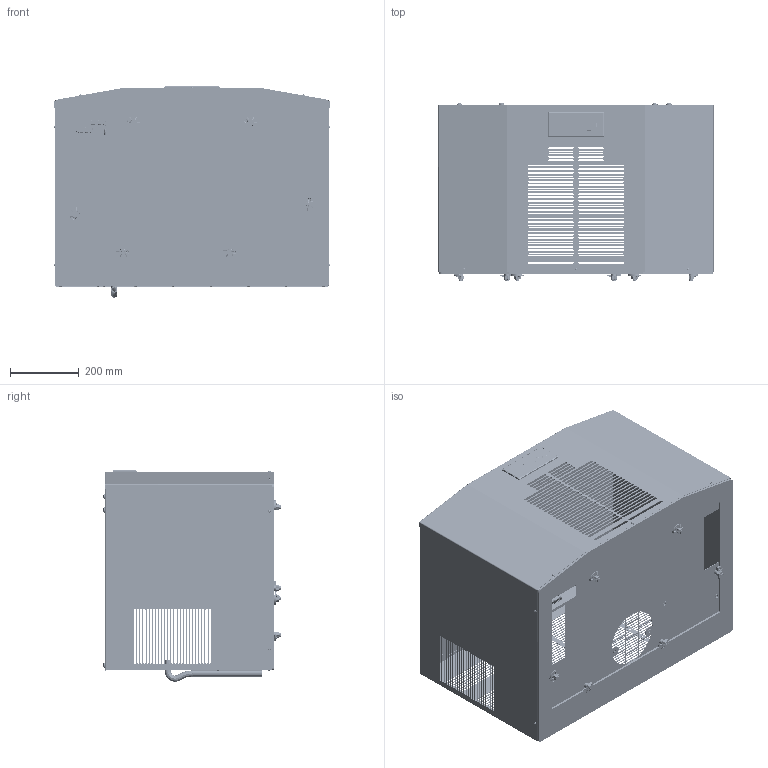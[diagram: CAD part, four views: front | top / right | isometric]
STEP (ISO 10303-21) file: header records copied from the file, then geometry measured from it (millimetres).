
FILE_DESCRIPTION (( 'STEP AP214' ), '1' );
FILE_NAME ('DTT_6601-6801_20150612_ohne Vorsatzfilter.STEP', '2022-09-28T11:39:02', ( '' ), ( '' ), 'SwSTEP 2.0', 'SolidWorks 2021', '' );
FILE_SCHEMA (( 'AUTOMOTIVE_DESIGN' ));
Length unit declared in the file: millimetre
Products named in the file (36): Spax Schrauben Torx_4,0 x 20mm; 30367-140; 11189-405; 020500670 PVC Schlauch in 30379-100; 025416832 WAGO  769-608_002-000; 30379-115_000710810 DTT 66_6801 400_460V 3~ PSCC; 30048-011; 30379-022_002002901; Schweiﾟbolzen EN ISO 13918_020140019 Schwei畸olzen 5x10 St cu Z］dspitze EN ISO 13918; 30178-026; 30379-201_000710781 DTT 6801 400V vormontiert; Blindniet_020140201  4.0x11 K12 Maxi; 30379-012_Bodenblech DTT 6801; Blechschraube mit Linsenkopf und Torx-Antrieb - DIN 7981_020100___ Schraube 4.2x13 St zn ohne Spitze  DIN 7981; 30379-021; 30379-012; Blindnietmutter  Sechskant offen_020140030 M6x14,5 6kt offen St; Blindnietmutter  Sechskant geschlossen_020140031 M6 6kt geschlossen St; DTT_6601-6801_20150612_ohne Vorsatzfilter; Federringe - DIN 127_020200130  Federring B6,0 St zn  DIN 127; 30379-108_000710831 Haubengruppe DTT 66_6801 VA; 30379-202_000710757 Bodengr. DTT 6801 400V; Hex Bolt GradeB_Pfannenberg GmbH_ISO 4015 - M6 x 35 x 18-N; 025416831 WAGO  769-609_002-000; 000721011 Gehäuse  Bedieneinheit; Flachkopfschraube mit Torx - ISO 7045 TX_ISO 7045 TX M8 x 16 vz; Blindnietmutter  Sechskant offen_020140042 M8x16.5 6kt offen St; PK0089AR_Vorreiber_kpl; 30048-011 Dichtung; 30179-083; 30048-100; 30367-012_085000417 Frontfolie Premium Bedieneinheit; 30379-021_002002900; 30379-014; 11189-639; 30048-012
Assembly tree (78 placements, depth 5):
  DTT_6601-6801_20150612_ohne Vorsatzfilter
    30379-201_000710781 DTT 6801 400V vormontiert
      30379-202_000710757 Bodengr. DTT 6801 400V
        30379-012_Bodenblech DTT 6801
          30379-012
          Schweiﾟbolzen EN ISO 13918_020140019 Schwei畸olzen 5x10 St cu Z］dspitze EN ISO 13918  x2
          Blindnietmutter  Sechskant offen_020140042 M8x16.5 6kt offen St  x3
          Blindnietmutter  Sechskant offen_020140030 M6x14,5 6kt offen St  x8
          Blindnietmutter  Sechskant geschlossen_020140031 M6 6kt geschlossen St  x6
    30379-108_000710831 Haubengruppe DTT 66_6801 VA
      30379-022_002002901
    30367-140
      000721011 Gehäuse  Bedieneinheit
      30367-012_085000417 Frontfolie Premium Bedieneinheit
    30048-100
      30048-011 Dichtung
      30048-011
      30048-012
    30379-021
      30379-021_002002900
    30379-115_000710810 DTT 66_6801 400_460V 3~ PSCC
      025416831 WAGO  769-609_002-000
      025416832 WAGO  769-608_002-000
    Flachkopfschraube mit Torx - ISO 7045 TX_ISO 7045 TX M8 x 16 vz  x4
    Spax Schrauben Torx_4,0 x 20mm  x4
    Blechschraube mit Linsenkopf und Torx-Antrieb - DIN 7981_020100___ Schraube 4.2x13 St zn ohne Spitze  DIN 7981  x7
    11189-639  x2
    11189-405
    Blindniet_020140201  4.0x11 K12 Maxi  x9
    Blindnietmutter  Sechskant offen_020140042 M8x16.5 6kt offen St  x2
    30379-014
    020500670 PVC Schlauch in 30379-100
    PK0089AR_Vorreiber_kpl  x6
      30178-026
      Federringe - DIN 127_020200130  Federring B6,0 St zn  DIN 127
      Hex Bolt GradeB_Pfannenberg GmbH_ISO 4015 - M6 x 35 x 18-N
    30179-083
Bounding box: 801.05 x 515.3 x 613.54 mm (x, y, z)
Volume: 3850259.2 mm3; surface area: 4755304.8 mm2
Topology: 80 solids, 80 shells, 8470 faces, 22196 edges, 14281 vertices
Faces by surface type: plane 4983, cylinder 1937, bspline 1005, cone 521, torus 24
Entity records: 219284 total; most frequent: CARTESIAN_POINT 62720, ORIENTED_EDGE 33344, DIRECTION 29786, EDGE_CURVE 16672, VECTOR 12388, LINE 12388, VERTEX_POINT 10852, AXIS2_PLACEMENT_3D 8699
